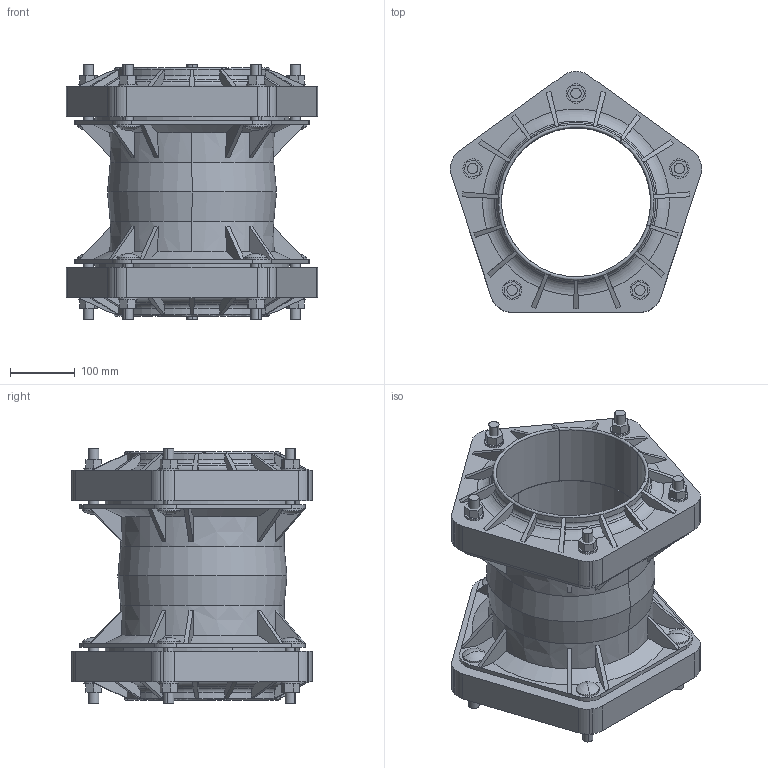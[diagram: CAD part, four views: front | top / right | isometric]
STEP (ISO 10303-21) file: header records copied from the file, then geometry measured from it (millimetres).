
FILE_DESCRIPTION((''),'2;1');
FILE_NAME('BIM_13198_8_ASM','2019-04-09T',('MReader'),(''),'CREO PARAMETRIC BY PTC INC, 2016130','CREO PARAMETRIC BY PTC INC, 2016130','');
FILE_SCHEMA(('CONFIG_CONTROL_DESIGN'));
Length unit declared in the file: millimetre
Products named in the file (3): BIM_13139; BIM_13141; BIM_13198_8_ASM
Assembly tree (3 placements, depth 2):
  BIM_13198_8_ASM
    BIM_13139
    BIM_13141  x2
Bounding box: 387.23 x 371.02 x 393 mm (x, y, z)
Volume: 9941859.7 mm3; surface area: 1167483.3 mm2
Topology: 3 solids, 3 shells, 558 faces, 1488 edges, 948 vertices
Faces by surface type: plane 248, cylinder 130, cone 96, torus 64, sphere 20
Entity records: 11911 total; most frequent: CARTESIAN_POINT 2353, DIRECTION 2068, ORIENTED_EDGE 1970, EDGE_CURVE 985, AXIS2_PLACEMENT_3D 784, VERTEX_POINT 638, VECTOR 500, LINE 500
